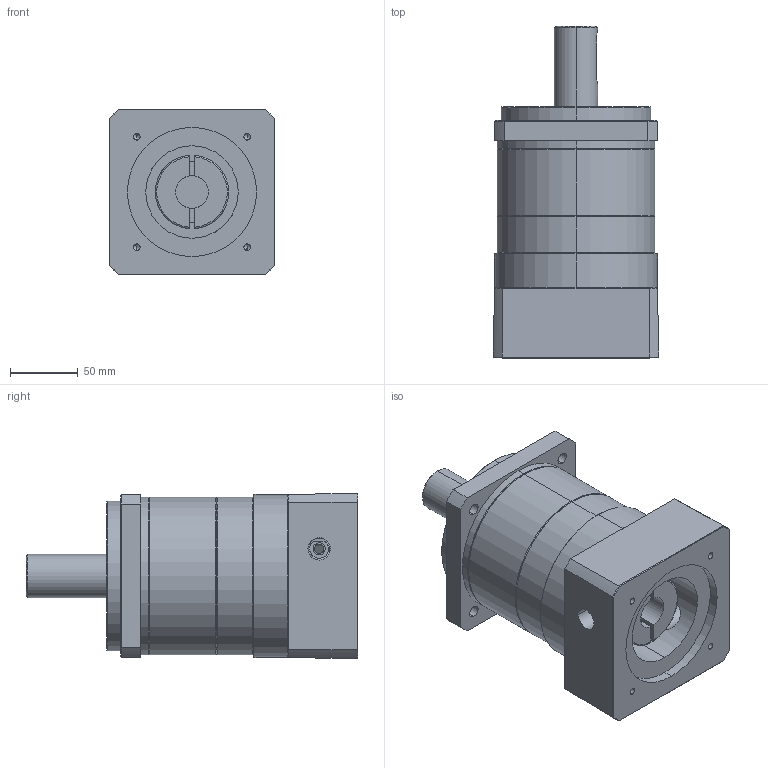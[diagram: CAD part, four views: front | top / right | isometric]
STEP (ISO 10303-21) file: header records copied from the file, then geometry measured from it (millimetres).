
FILE_DESCRIPTION (( 'STEP AP203' ), '1' );
FILE_NAME ('MF120X-L2£r95PCD£r115M6.STEP', '2014-04-16T02:04:50', ( 'KELLY' ), ( '' ), 'SwSTEP 2.0', 'SolidWorks 2012', '' );
FILE_SCHEMA (( 'CONFIG_CONTROL_DESIGN' ));
Length unit declared in the file: millimetre
Products named in the file (1): MF120X-L2｣r95PCD｣r115M6
Bounding box: 121.76 x 244.2 x 121.76 mm (x, y, z)
Volume: 2037882.5 mm3; surface area: 213786.2 mm2
Topology: 4 solids, 4 shells, 155 faces, 364 edges, 223 vertices
Faces by surface type: cylinder 64, plane 47, cone 40, torus 4
Entity records: 5043 total; most frequent: CARTESIAN_POINT 1381, DIRECTION 780, ORIENTED_EDGE 708, EDGE_CURVE 354, AXIS2_PLACEMENT_3D 316, VERTEX_POINT 223, EDGE_LOOP 191, CIRCLE 160
